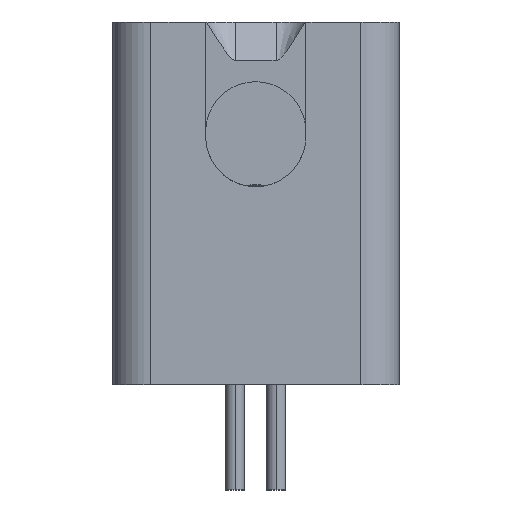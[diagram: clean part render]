
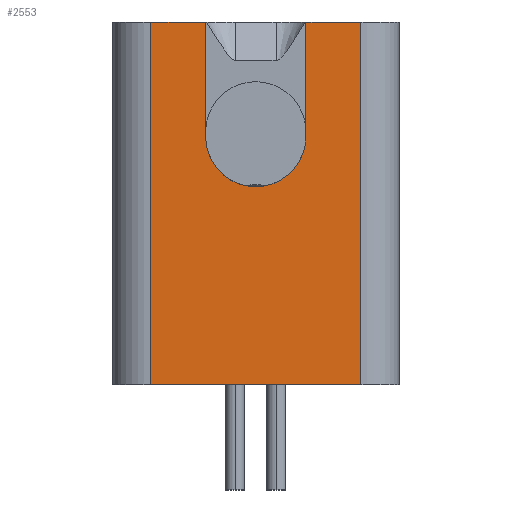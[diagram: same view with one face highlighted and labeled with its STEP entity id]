
A CAD part, left-side view. The second image highlights one B-rep face of the part: STEP entity #2553.
In plain terms, the highlighted planar face has unit normal (-1, 0, 0).
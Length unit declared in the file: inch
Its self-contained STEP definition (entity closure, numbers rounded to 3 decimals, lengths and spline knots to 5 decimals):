
#230 = FACE_OUTER_BOUND ( 'NONE', #23890, .T. ) ;
#668 = VERTEX_POINT ( 'NONE', #5263 ) ;
#2437 = CARTESIAN_POINT ( 'NONE',  ( -0.6625, 0., 0.115 ) ) ;
#2553 = ADVANCED_FACE ( 'NONE', ( #230 ), #24632, .T. ) ;
#2961 = VECTOR ( 'NONE', #33441, 39.37008 ) ;
#3101 = AXIS2_PLACEMENT_3D ( 'NONE', #29475, #16966, #35266 ) ;
#3499 = ORIENTED_EDGE ( 'NONE', *, *, #9220, .F. ) ;
#4574 = VECTOR ( 'NONE', #31818, 39.37008 ) ;
#4803 = CARTESIAN_POINT ( 'NONE',  ( -0.6625, -0.11, 0.04 ) ) ;
#4976 = EDGE_CURVE ( 'NONE', #10544, #16523, #8241, .T. ) ;
#5088 = DIRECTION ( 'NONE',  ( 0., 0., -1. ) ) ;
#5242 = ORIENTED_EDGE ( 'NONE', *, *, #14923, .T. ) ;
#5263 = CARTESIAN_POINT ( 'NONE',  ( -0.6625, -0.11, -0.145 ) ) ;
#6646 = ORIENTED_EDGE ( 'NONE', *, *, #20244, .F. ) ;
#7601 = DIRECTION ( 'NONE',  ( 0., 0., 1. ) ) ;
#8240 = EDGE_CURVE ( 'NONE', #29218, #33358, #37646, .T. ) ;
#8241 = CIRCLE ( 'NONE', #13914, 0.0525 ) ;
#9220 = EDGE_CURVE ( 'NONE', #668, #33358, #25780, .T. ) ;
#10137 = CARTESIAN_POINT ( 'NONE',  ( -0.6625, -0.0525, 0.235 ) ) ;
#10244 = CARTESIAN_POINT ( 'NONE',  ( -0.6625, -0.0525, 0.235 ) ) ;
#10544 = VERTEX_POINT ( 'NONE', #23626 ) ;
#10629 = LINE ( 'NONE', #22423, #27069 ) ;
#11015 = VECTOR ( 'NONE', #21858, 39.37008 ) ;
#11043 = CIRCLE ( 'NONE', #3101, 0.0525 ) ;
#11330 = VERTEX_POINT ( 'NONE', #24830 ) ;
#11605 = ORIENTED_EDGE ( 'NONE', *, *, #8240, .T. ) ;
#11991 = ORIENTED_EDGE ( 'NONE', *, *, #13348, .T. ) ;
#12697 = LINE ( 'NONE', #10244, #4574 ) ;
#13348 = EDGE_CURVE ( 'NONE', #37705, #19660, #25554, .T. ) ;
#13431 = LINE ( 'NONE', #23526, #31127 ) ;
#13734 = CARTESIAN_POINT ( 'NONE',  ( -0.6625, -0.0525, 0.115 ) ) ;
#13735 = VERTEX_POINT ( 'NONE', #13734 ) ;
#13914 = AXIS2_PLACEMENT_3D ( 'NONE', #2437, #14572, #7601 ) ;
#14264 = ORIENTED_EDGE ( 'NONE', *, *, #25247, .F. ) ;
#14572 = DIRECTION ( 'NONE',  ( 1., 0., 0. ) ) ;
#14923 = EDGE_CURVE ( 'NONE', #13735, #10544, #11043, .T. ) ;
#16230 = EDGE_CURVE ( 'NONE', #11330, #29218, #30721, .T. ) ;
#16523 = VERTEX_POINT ( 'NONE', #30930 ) ;
#16966 = DIRECTION ( 'NONE',  ( 1., 0., 0. ) ) ;
#18253 = CARTESIAN_POINT ( 'NONE',  ( -0.6625, 0.11, 0.235 ) ) ;
#19660 = VERTEX_POINT ( 'NONE', #10137 ) ;
#20244 = EDGE_CURVE ( 'NONE', #37705, #668, #10629, .T. ) ;
#21006 = DIRECTION ( 'NONE',  ( 0., 0., 1. ) ) ;
#21333 = DIRECTION ( 'NONE',  ( 0., 1., 0. ) ) ;
#21858 = DIRECTION ( 'NONE',  ( 0., 0., -1. ) ) ;
#22270 = CARTESIAN_POINT ( 'NONE',  ( -0.6625, -0.11, 0.235 ) ) ;
#22423 = CARTESIAN_POINT ( 'NONE',  ( -0.6625, -0.11, 0.04 ) ) ;
#23526 = CARTESIAN_POINT ( 'NONE',  ( -0.6625, 0.0525, 0.235 ) ) ;
#23626 = CARTESIAN_POINT ( 'NONE',  ( -0.6625, 0., 0.0625 ) ) ;
#23890 = EDGE_LOOP ( 'NONE', ( #14264, #5242, #31800, #31941, #30499, #11605, #3499, #6646, #11991 ) ) ;
#24632 = PLANE ( 'NONE',  #29405 ) ;
#24830 = CARTESIAN_POINT ( 'NONE',  ( -0.6625, 0.0525, 0.235 ) ) ;
#25011 = CARTESIAN_POINT ( 'NONE',  ( -0.6625, 0.11, 0.04 ) ) ;
#25247 = EDGE_CURVE ( 'NONE', #13735, #19660, #12697, .T. ) ;
#25554 = LINE ( 'NONE', #34595, #2961 ) ;
#25780 = LINE ( 'NONE', #27852, #26828 ) ;
#26413 = CARTESIAN_POINT ( 'NONE',  ( -0.6625, 0.11, -0.145 ) ) ;
#26828 = VECTOR ( 'NONE', #27337, 39.37008 ) ;
#27069 = VECTOR ( 'NONE', #34840, 39.37008 ) ;
#27337 = DIRECTION ( 'NONE',  ( 0., 1., 0. ) ) ;
#27852 = CARTESIAN_POINT ( 'NONE',  ( -0.6625, -0.11, -0.145 ) ) ;
#29218 = VERTEX_POINT ( 'NONE', #30343 ) ;
#29405 = AXIS2_PLACEMENT_3D ( 'NONE', #4803, #30050, #21006 ) ;
#29475 = CARTESIAN_POINT ( 'NONE',  ( -0.6625, 0., 0.115 ) ) ;
#30050 = DIRECTION ( 'NONE',  ( -1., 0., 0. ) ) ;
#30343 = CARTESIAN_POINT ( 'NONE',  ( -0.6625, 0.11, 0.235 ) ) ;
#30499 = ORIENTED_EDGE ( 'NONE', *, *, #16230, .T. ) ;
#30721 = LINE ( 'NONE', #18253, #35937 ) ;
#30930 = CARTESIAN_POINT ( 'NONE',  ( -0.6625, 0.0525, 0.115 ) ) ;
#31127 = VECTOR ( 'NONE', #5088, 39.37008 ) ;
#31800 = ORIENTED_EDGE ( 'NONE', *, *, #4976, .T. ) ;
#31818 = DIRECTION ( 'NONE',  ( 0., 0., 1. ) ) ;
#31941 = ORIENTED_EDGE ( 'NONE', *, *, #32052, .F. ) ;
#32052 = EDGE_CURVE ( 'NONE', #11330, #16523, #13431, .T. ) ;
#33358 = VERTEX_POINT ( 'NONE', #26413 ) ;
#33441 = DIRECTION ( 'NONE',  ( 0., 1., 0. ) ) ;
#34595 = CARTESIAN_POINT ( 'NONE',  ( -0.6625, 0.11, 0.235 ) ) ;
#34840 = DIRECTION ( 'NONE',  ( 0., 0., -1. ) ) ;
#35266 = DIRECTION ( 'NONE',  ( 0., 0., 1. ) ) ;
#35937 = VECTOR ( 'NONE', #21333, 39.37008 ) ;
#37646 = LINE ( 'NONE', #25011, #11015 ) ;
#37705 = VERTEX_POINT ( 'NONE', #22270 ) ;
